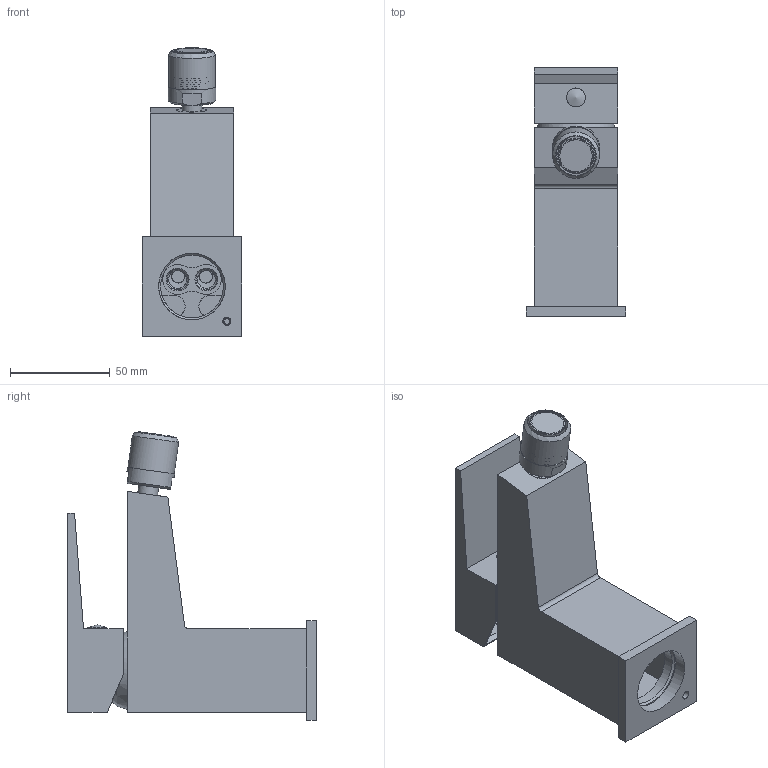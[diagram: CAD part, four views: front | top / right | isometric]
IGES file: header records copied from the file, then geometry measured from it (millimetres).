
Global section: file name: a7694f56-6052-42bf-b12c-39700a7f0c53.zip; native system: unknown; preprocessor: unknown; author: unknown; organization: unknown; date: 20191209.144458; units: millimetre
Bounding box: 50 x 125.03 x 144.98 mm (x, y, z)
Volume: 163040.2 mm3; surface area: 106722.2 mm2
Topology: 19 solids, 19 shells, 475 faces, 1353 edges, 955 vertices
Faces by surface type: bspline 475
